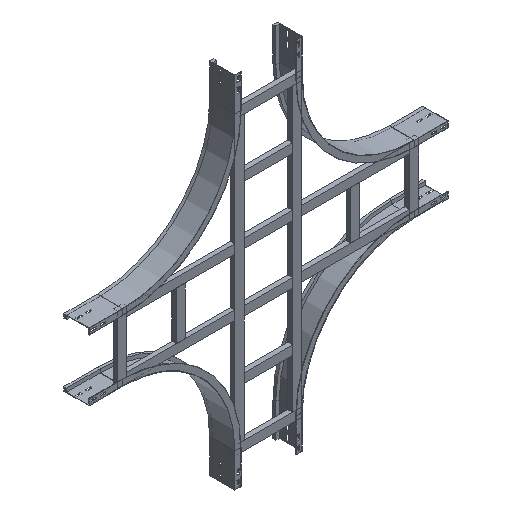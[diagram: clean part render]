
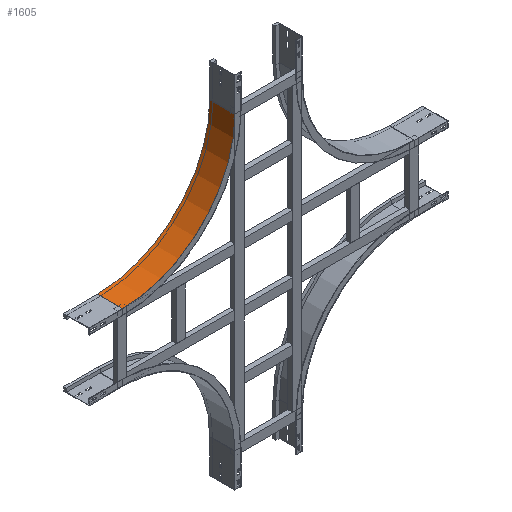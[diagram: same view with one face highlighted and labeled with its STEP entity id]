
A CAD part, isometric view. The second image highlights one B-rep face of the part: STEP entity #1605.
In plain terms, the highlighted cylindrical face has radius 500 mm (diameter 1000 mm), a partial arc.
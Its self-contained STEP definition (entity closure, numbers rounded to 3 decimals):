
#132 = DIRECTION ( 'NONE',  ( 0., -1., 0. ) ) ;
#211 = ORIENTED_EDGE ( 'NONE', *, *, #2813, .F. ) ;
#264 = ORIENTED_EDGE ( 'NONE', *, *, #1362, .T. ) ;
#292 = VECTOR ( 'NONE', #2735, 1000. ) ;
#391 = CARTESIAN_POINT ( 'NONE',  ( 0., 112.5, -150. ) ) ;
#637 = CIRCLE ( 'NONE', #2294, 500. ) ;
#654 = CARTESIAN_POINT ( 'NONE',  ( 0., 0., -150. ) ) ;
#903 = FACE_OUTER_BOUND ( 'NONE', #2622, .T. ) ;
#925 = ORIENTED_EDGE ( 'NONE', *, *, #2344, .F. ) ;
#1025 = CARTESIAN_POINT ( 'NONE',  ( 500., 112.5, -150. ) ) ;
#1039 = VERTEX_POINT ( 'NONE', #1869 ) ;
#1090 = DIRECTION ( 'NONE',  ( 0., -1., 0. ) ) ;
#1149 = CARTESIAN_POINT ( 'NONE',  ( 0., 0., -150. ) ) ;
#1169 = LINE ( 'NONE', #1429, #292 ) ;
#1176 = VERTEX_POINT ( 'NONE', #654 ) ;
#1343 = CARTESIAN_POINT ( 'NONE',  ( 500., 0., -650. ) ) ;
#1354 = DIRECTION ( 'NONE',  ( 0., 0., -1. ) ) ;
#1362 = EDGE_CURVE ( 'NONE', #1627, #1039, #1169, .T. ) ;
#1429 = CARTESIAN_POINT ( 'NONE',  ( 500., 0., -650. ) ) ;
#1605 = ADVANCED_FACE ( 'NONE', ( #903 ), #1785, .F. ) ;
#1627 = VERTEX_POINT ( 'NONE', #1343 ) ;
#1743 = CIRCLE ( 'NONE', #2220, 500. ) ;
#1785 = CYLINDRICAL_SURFACE ( 'NONE', #2100, 500. ) ;
#1833 = DIRECTION ( 'NONE',  ( 0., 1., 0. ) ) ;
#1869 = CARTESIAN_POINT ( 'NONE',  ( 500., 112.5, -650. ) ) ;
#1902 = ORIENTED_EDGE ( 'NONE', *, *, #2112, .T. ) ;
#1951 = VERTEX_POINT ( 'NONE', #391 ) ;
#1998 = LINE ( 'NONE', #1149, #2312 ) ;
#2019 = DIRECTION ( 'NONE',  ( -1., 0., 0. ) ) ;
#2100 = AXIS2_PLACEMENT_3D ( 'NONE', #2673, #2910, #1354 ) ;
#2112 = EDGE_CURVE ( 'NONE', #1176, #1627, #637, .T. ) ;
#2213 = CARTESIAN_POINT ( 'NONE',  ( 500., 0., -150. ) ) ;
#2220 = AXIS2_PLACEMENT_3D ( 'NONE', #1025, #132, #2817 ) ;
#2294 = AXIS2_PLACEMENT_3D ( 'NONE', #2213, #1090, #2019 ) ;
#2312 = VECTOR ( 'NONE', #1833, 1000. ) ;
#2344 = EDGE_CURVE ( 'NONE', #1951, #1039, #1743, .T. ) ;
#2622 = EDGE_LOOP ( 'NONE', ( #925, #211, #1902, #264 ) ) ;
#2673 = CARTESIAN_POINT ( 'NONE',  ( 500., 0., -150. ) ) ;
#2735 = DIRECTION ( 'NONE',  ( 0., 1., 0. ) ) ;
#2813 = EDGE_CURVE ( 'NONE', #1176, #1951, #1998, .T. ) ;
#2817 = DIRECTION ( 'NONE',  ( -1., 0., 0. ) ) ;
#2910 = DIRECTION ( 'NONE',  ( 0., -1., 0. ) ) ;
